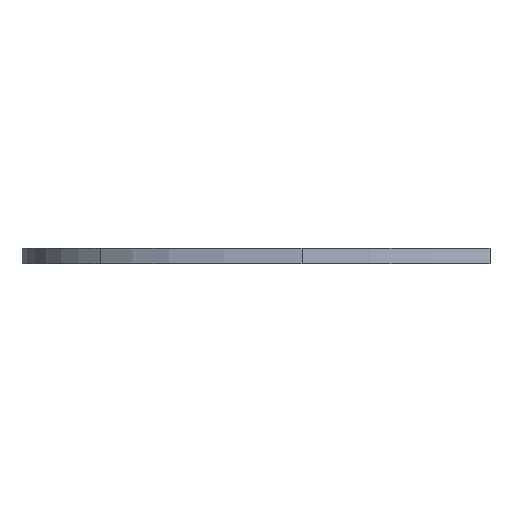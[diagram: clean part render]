
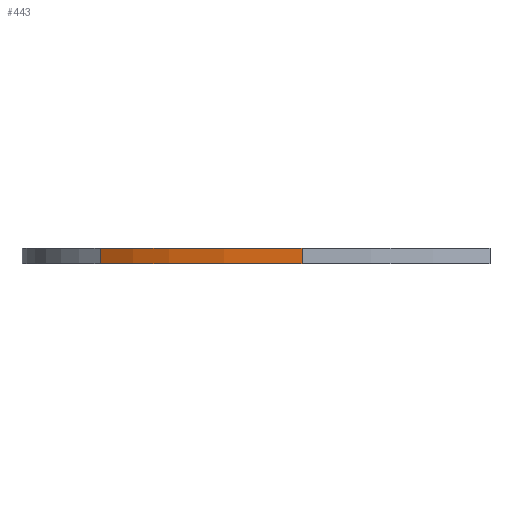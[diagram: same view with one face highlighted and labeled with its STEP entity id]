
A CAD part, front view. The second image highlights one B-rep face of the part: STEP entity #443.
In plain terms, the highlighted free-form (B-spline) face has degree [3, 1] with [4, 2] control points.
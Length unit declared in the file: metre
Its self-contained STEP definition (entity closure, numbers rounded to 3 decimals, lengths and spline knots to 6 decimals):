
#28=B_SPLINE_SURFACE_WITH_KNOTS('',3,1,((#985,#986),(#987,#988),(#989,#990),
(#991,#992)),.SURF_OF_LINEAR_EXTRUSION.,.F.,.F.,.F.,(4,4),(2,2),(18.,19.),
(0.,1.),.UNSPECIFIED.);
#52=LINE('',#984,#77);
#53=LINE('',#993,#78);
#77=VECTOR('',#637,1.);
#78=VECTOR('',#638,1.);
#193=ORIENTED_EDGE('',*,*,#227,.T.);
#194=ORIENTED_EDGE('',*,*,#268,.F.);
#195=ORIENTED_EDGE('',*,*,#233,.F.);
#196=ORIENTED_EDGE('',*,*,#269,.T.);
#227=EDGE_CURVE('',#291,#290,#330,.T.);
#233=EDGE_CURVE('',#296,#297,#334,.T.);
#268=EDGE_CURVE('',#297,#290,#52,.T.);
#269=EDGE_CURVE('',#296,#291,#53,.T.);
#290=VERTEX_POINT('',#729);
#291=VERTEX_POINT('',#734);
#296=VERTEX_POINT('',#754);
#297=VERTEX_POINT('',#759);
#330=B_SPLINE_CURVE_WITH_KNOTS('',3,(#730,#731,#732,#733),.UNSPECIFIED.,
 .F.,.F.,(4,4),(18.,19.),.UNSPECIFIED.);
#334=B_SPLINE_CURVE_WITH_KNOTS('',3,(#755,#756,#757,#758),.UNSPECIFIED.,
 .F.,.F.,(4,4),(18.,19.),.UNSPECIFIED.);
#369=EDGE_LOOP('',(#193,#194,#195,#196));
#392=FACE_BOUND('',#369,.T.);
#443=ADVANCED_FACE('',(#392),#28,.F.);
#637=DIRECTION('',(0.,0.,1.));
#638=DIRECTION('',(0.,0.,1.));
#729=CARTESIAN_POINT('',(-0.098049,-0.011617,0.006263));
#730=CARTESIAN_POINT('',(-0.098036,-0.01162,0.006263));
#731=CARTESIAN_POINT('',(-0.098041,-0.01162,0.006263));
#732=CARTESIAN_POINT('',(-0.098045,-0.011619,0.006263));
#733=CARTESIAN_POINT('',(-0.098049,-0.011617,0.006263));
#734=CARTESIAN_POINT('',(-0.098036,-0.01162,0.006263));
#754=CARTESIAN_POINT('',(-0.098036,-0.01162,0.006262));
#755=CARTESIAN_POINT('',(-0.098036,-0.01162,0.006262));
#756=CARTESIAN_POINT('',(-0.098041,-0.01162,0.006262));
#757=CARTESIAN_POINT('',(-0.098045,-0.011619,0.006262));
#758=CARTESIAN_POINT('',(-0.098049,-0.011617,0.006262));
#759=CARTESIAN_POINT('',(-0.098049,-0.011617,0.006262));
#984=CARTESIAN_POINT('',(-0.098049,-0.011617,0.006262));
#985=CARTESIAN_POINT('',(-0.098036,-0.01162,0.006262));
#986=CARTESIAN_POINT('',(-0.098036,-0.01162,0.006263));
#987=CARTESIAN_POINT('',(-0.098041,-0.01162,0.006262));
#988=CARTESIAN_POINT('',(-0.098041,-0.01162,0.006263));
#989=CARTESIAN_POINT('',(-0.098045,-0.011619,0.006262));
#990=CARTESIAN_POINT('',(-0.098045,-0.011619,0.006263));
#991=CARTESIAN_POINT('',(-0.098049,-0.011617,0.006262));
#992=CARTESIAN_POINT('',(-0.098049,-0.011617,0.006263));
#993=CARTESIAN_POINT('',(-0.098036,-0.01162,0.006262));
